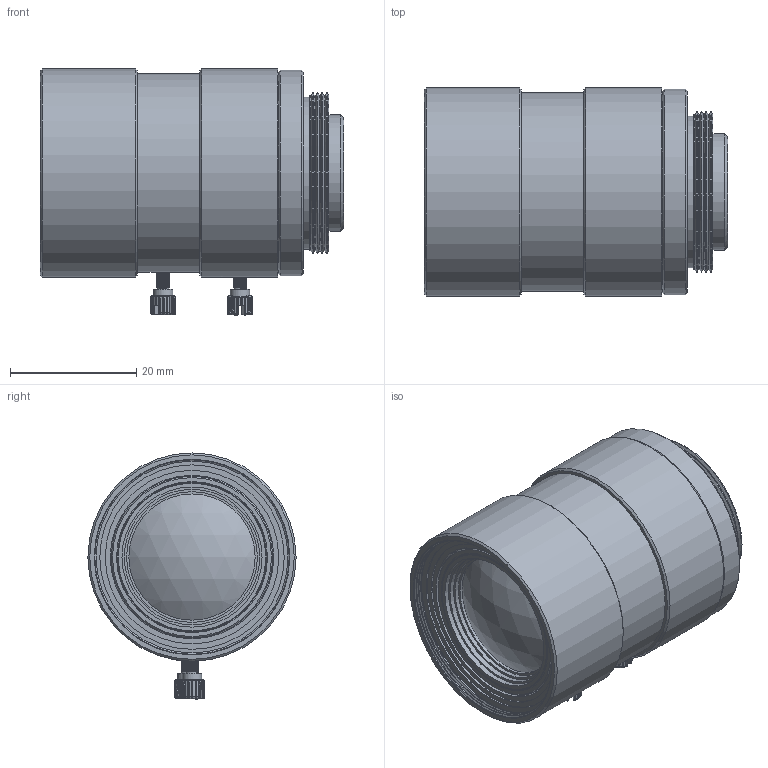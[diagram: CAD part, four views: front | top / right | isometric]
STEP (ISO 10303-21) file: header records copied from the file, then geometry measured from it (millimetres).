
FILE_DESCRIPTION(/* description */ ('TCL 1616 5MP'),/* implementation_level */ '2;1');
FILE_NAME(/* name */ 'D:\1_Konstruktion\1_KUNDEN\TIS\199-15_Objektive_Step-Dateien für Endkundem\C-Objektive (8x)\Lens_TCL 1616 5MP.stp',/* time_stamp */ '2016-01-28T19:59:02+01:00',/* author */ ('khw'),/* organization */ (''),/* preprocessor_version */ 'ST-DEVELOPER v15.2',/* originating_system */ 'Autodesk Inventor 2014',/* authorisation */ '6767,5 mm^3');
FILE_SCHEMA (('AUTOMOTIVE_DESIGN { 1 0 10303 214 3 1 1 }'));
Length unit declared in the file: millimetre
Products named in the file (1): Lens_TCL 1616 5MP
Bounding box: 48.08 x 33 x 39 mm (x, y, z)
Volume: 18592.4 mm3; surface area: 21240.9 mm2
Topology: 4 solids, 4 shells, 743 faces, 2333 edges, 1288 vertices
Faces by surface type: bspline 290, cylinder 235, plane 148, cone 62, torus 4, sphere 4
Full cylindrical faces by diameter (mm): 2 x42, 3.1 x2, 11.2 x1, 13.92 x1, 15 x2, 16 x1, 16.02 x1, 16.6 x1, 17.02 x1, 17.5 x2, 18 x1, 18.5 x1, 20 x2, 20.1 x1, 20.72 x1, 21 x1, 21.48 x1, 22.2 x1, 23 x3, 23.066 x1, 24 x1, 24.066 x1, 24.6 x1, 24.88 x1, 25 x1, 25.466 x4, 25.6 x1, 25.9 x1, 26 x12, 26.1 x1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
Entity records: 63910 total; most frequent: CARTESIAN_POINT 46618, ORIENTED_EDGE 3970, DIRECTION 2903, EDGE_CURVE 1985, AXIS2_PLACEMENT_3D 1283, VERTEX_POINT 1224, CIRCLE 861, EDGE_LOOP 853
